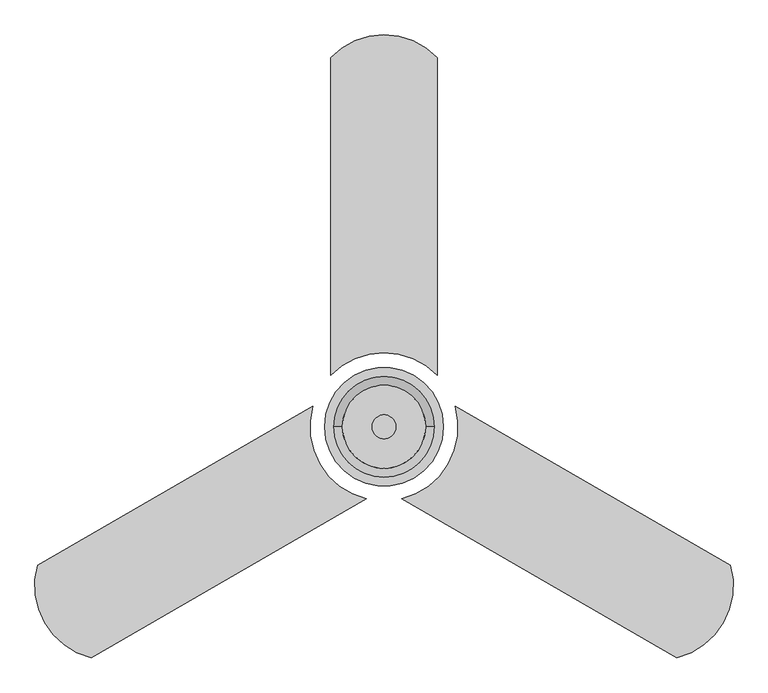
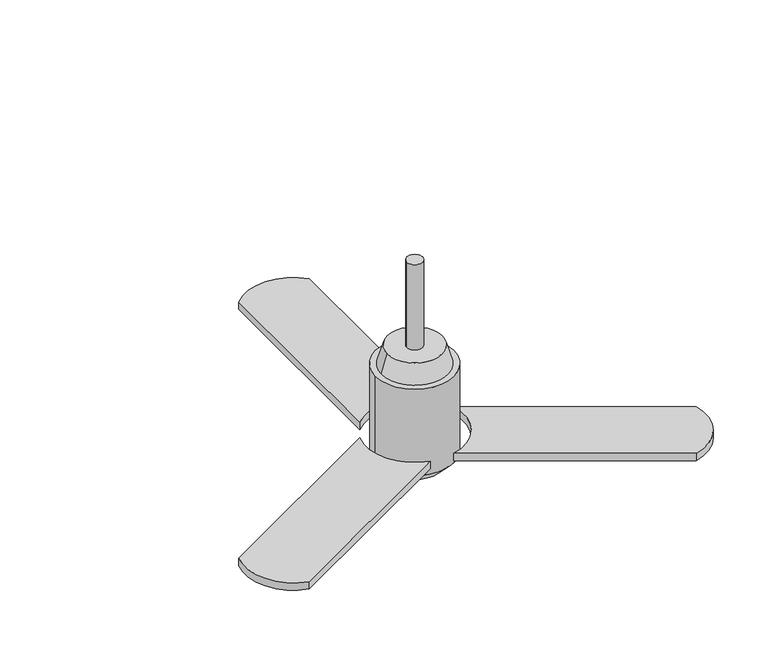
"""IFC4 building model written with IfcOpenShell, lengths in millimetres: proxy geometry, AI_Instal elec_Brasseur d'air : AI_Instal elec_Brasseur d'air."""

from ifc_helpers import new_model, si_unit, point, frame, frame_2d, origin, origin_with_axes, origin_2d, place, context, project, spatial, polyline, circle_curve, trimmed, segment, composite_curve, outline, extrude, source, transform, mapped, element, save
from ifc_brep_helpers import plane_surface, revolved_surface, advanced_brep


def electrical_fixtures_3a4acf06(model_context):
    return source(origin(), model_context, "Body", "SolidModel", [
        extrude(outline(composite_curve([segment(trimmed(circle_curve(origin_2d(), 100.0), [point((-100.0, 0.0))], [point((100.0, 0.0))], False, "CARTESIAN"), True, "CONTINUOUS"), segment(trimmed(circle_curve(origin_2d(), 100.0), [point((100.0, 0.0))], [point((-100.0, 0.0))], False, "CARTESIAN"), True, "CONTINUOUS")], self_intersect=False)), frame((0.0, 0.0, -32.6091771), z_axis=(0.0, 0.0, 1.0), x_axis=(1.0, 0.0, 0.0)), (0.0, 0.0, 1.0), 232.6091771),
        extrude(outline(composite_curve([segment(trimmed(circle_curve(origin_2d(), 125.0), [point((90.0, 86.7467579))], [point((-90.0, 86.7467579))], True, "CARTESIAN"), True, "CONTINUOUS"), segment(polyline([(-90.0, 86.7467579), (-90.0, 621.7467579)]), True, "CONTINUOUS"), segment(trimmed(circle_curve(frame_2d((0.0, 535.0)), 125.0), [point((-90.0, 621.7467579))], [point((90.0, 621.7467579))], False, "CARTESIAN"), True, "CONTINUOUS"), segment(polyline([(90.0, 621.7467579), (90.0, 86.7467579)]), True, "CONTINUOUS")], self_intersect=False)), origin_with_axes(), (0.0, 0.0, 1.0), 20.0),
        extrude(outline(composite_curve([segment(polyline([(120.124896, 34.5689074), (583.448487, -232.9310926)]), True, "CONTINUOUS"), segment(trimmed(circle_curve(frame_2d((463.323591, -267.5)), 125.0), [point((583.448487, -232.9310926))], [point((493.448487, -388.8156653))], False, "CARTESIAN"), True, "CONTINUOUS"), segment(polyline([(493.448487, -388.8156653), (30.124896, -121.3156653)]), True, "CONTINUOUS"), segment(trimmed(circle_curve(origin_2d(), 125.0), [point((30.124896, -121.3156653))], [point((120.124896, 34.5689074))], True, "CARTESIAN"), True, "CONTINUOUS")], self_intersect=False)), origin_with_axes(), (0.0, 0.0, 1.0), 20.0),
        extrude(outline(composite_curve([segment(trimmed(circle_curve(origin_2d(), 20.0), [point((-20.0, 0.0))], [point((20.0, 0.0))], False, "CARTESIAN"), True, "CONTINUOUS"), segment(trimmed(circle_curve(origin_2d(), 20.0), [point((20.0, 0.0))], [point((-20.0, 0.0))], False, "CARTESIAN"), True, "CONTINUOUS")], self_intersect=False)), frame((0.0, 0.0, 200.0), z_axis=(0.0, 0.0, 1.0), x_axis=(1.0, 0.0, 0.0)), (0.0, 0.0, 1.0), 280.0),
        extrude(outline(composite_curve([segment(trimmed(circle_curve(origin_2d(), 125.0), [point((-120.124896, 34.5689074))], [point((-30.124896, -121.3156653))], True, "CARTESIAN"), True, "CONTINUOUS"), segment(polyline([(-30.124896, -121.3156653), (-493.448487, -388.8156653)]), True, "CONTINUOUS"), segment(trimmed(circle_curve(frame_2d((-463.323591, -267.5)), 125.0), [point((-493.448487, -388.8156653))], [point((-583.448487, -232.9310926))], False, "CARTESIAN"), True, "CONTINUOUS"), segment(polyline([(-583.448487, -232.9310926), (-120.124896, 34.5689074)]), True, "CONTINUOUS")], self_intersect=False)), origin_with_axes(), (0.0, 0.0, 1.0), 20.0),
        advanced_brep(
        [(-70.0, 0.0, 250.0), (70.0, 0.0, 250.0), (-85.0, 0.0, 200.0), (85.0, 0.0, 200.0)],
        [
            (0, 1, circle_curve(frame((0.0, 0.0, 250.0), z_axis=(0.0, 0.0, 1.0), x_axis=(-1.0, 0.0, 0.0)), 70.0)),
            (1, 0, circle_curve(frame((0.0, 0.0, 250.0), z_axis=(0.0, 0.0, 1.0), x_axis=(1.0, 0.0, 0.0)), 70.0)),
            (2, 3, circle_curve(frame((0.0, 0.0, 200.0), z_axis=(0.0, 0.0, -1.0), x_axis=(1.0, 0.0, 0.0)), 85.0)),
            (3, 2, circle_curve(frame((0.0, 0.0, 200.0), z_axis=(0.0, 0.0, -1.0), x_axis=(-1.0, 0.0, 0.0)), 85.0)),
            (3, 1),
            (0, 2),
        ],
        [
            plane_surface(frame((0.0, 0.0, 250.0), z_axis=(0.0, 0.0, 1.0), x_axis=(0.0, -1.0, 0.0))),
            plane_surface(frame((0.0, 0.0, 200.0), z_axis=(0.0, 0.0, -1.0), x_axis=(0.0, -1.0, 0.0))),
            revolved_surface(polyline([(-69.9999999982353, 0.0, 250.0), (-85.0, 0.0, 200.0)]), (0.0, 0.0, 483.3333333), (0.0, 0.0, -1.0)),
            revolved_surface(polyline([(69.9999999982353, 0.0, 250.0), (85.0, 0.0, 200.0)]), (0.0, 0.0, 483.3333333), (0.0, 0.0, -1.0)),
        ],
        [
            (0, [[1, 2]]),
            (1, [[3, 4]]),
            (2, [[-4, 5, -1, 6]]),
            (3, [[-3, -6, -2, -5]]),
        ],
    ),
        advanced_brep(
        [(-100.0, 0.0, -32.6091771), (100.0, 0.0, -32.6091771), (-70.0, 0.0, -64.1878117), (70.0, 0.0, -64.1878117)],
        [
            (0, 1, circle_curve(frame((0.0, 0.0, -32.6091771), z_axis=(0.0, 0.0, 1.0), x_axis=(-1.0, 0.0, 0.0)), 100.0)),
            (1, 0, circle_curve(frame((0.0, 0.0, -32.6091771), z_axis=(0.0, 0.0, 1.0), x_axis=(1.0, 0.0, 0.0)), 100.0)),
            (2, 3, circle_curve(frame((0.0, 0.0, -64.1878117), z_axis=(0.0, 0.0, -1.0), x_axis=(1.0, 0.0, 0.0)), 70.0)),
            (3, 2, circle_curve(frame((0.0, 0.0, -64.1878117), z_axis=(0.0, 0.0, -1.0), x_axis=(-1.0, 0.0, 0.0)), 70.0)),
            (3, 1),
            (0, 2),
        ],
        [
            plane_surface(frame((0.0, 0.0, -32.6091771), z_axis=(0.0, 0.0, 1.0), x_axis=(0.0, -1.0, 0.0))),
            plane_surface(frame((0.0, 0.0, -64.1878117), z_axis=(0.0, 0.0, -1.0), x_axis=(0.0, -1.0, 0.0))),
            revolved_surface(polyline([(70.00000004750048, 0.0, -64.1878117), (100.0, 0.0, -32.6091771)]), (0.0, 0.0, -137.8712926), (0.0, 0.0, 1.0)),
            revolved_surface(polyline([(-70.00000004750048, 0.0, -64.1878117), (-100.0, 0.0, -32.6091771)]), (0.0, 0.0, -137.8712926), (0.0, 0.0, 1.0)),
        ],
        [
            (0, [[1, 2]]),
            (1, [[3, 4]]),
            (2, [[-4, 5, -1, 6]]),
            (3, [[-3, -6, -2, -5]]),
        ],
    ),
    ])


if __name__ == "__main__":
    model = new_model("IFC4")
    model_context = context("Model", 3, world=origin())
    ifc_project = project(units=[si_unit("LENGTHUNIT", "METRE", prefix="MILLI")], contexts=[model_context])
    site = spatial("IfcSite", under=ifc_project)
    building = spatial("IfcBuilding", under=site)
    placement = place(None, origin())
    electrical_fixtures_shape = electrical_fixtures_3a4acf06(model_context)
    element("IfcBuildingElementProxy", 1, Name="AI_Instal elec_Brasseur d'air : AI_Instal elec_Brasseur d'air", ObjectType="AI_Instal elec_Brasseur d'air : AI_Instal elec_Brasseur d'air", at=placement, inside=building, context=model_context, shape_type="MappedRepresentation", body=[
        mapped(electrical_fixtures_shape, transform((0.0, 0.0, 0.0), x_axis=(1.0, 0.0, 0.0), y_axis=(0.0, 1.0, 0.0), z_axis=(0.0, 0.0, 1.0))),
    ])
    save(model, "model.ifc")
